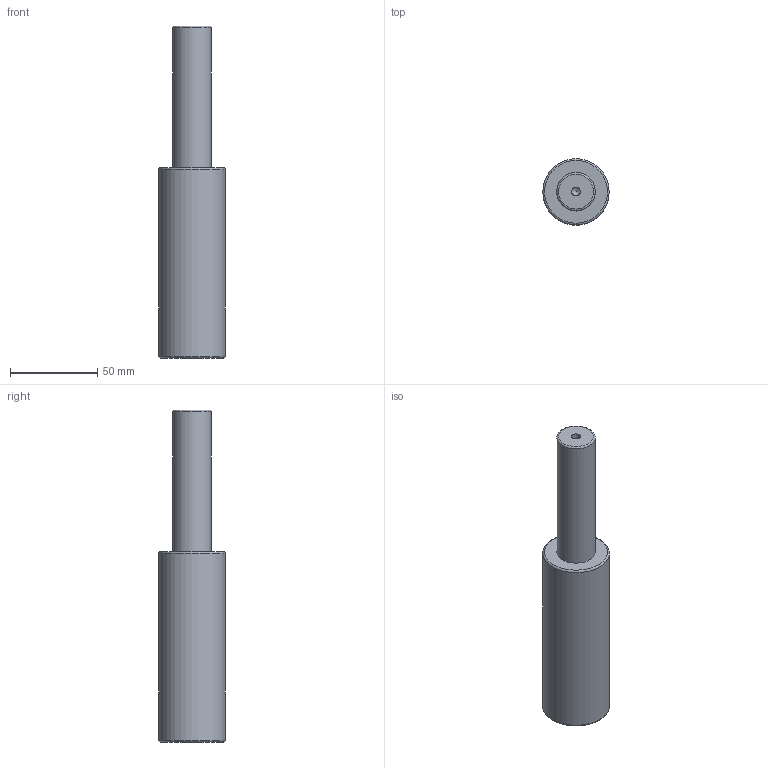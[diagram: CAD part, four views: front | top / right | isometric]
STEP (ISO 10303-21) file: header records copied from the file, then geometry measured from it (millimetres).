
FILE_DESCRIPTION(/* description */ (''),/* implementation_level */ '2;1');
FILE_NAME(/* name */ 'NV5-SMLX.38x80.stp',/* time_stamp */ '2018-08-31T16:08:35+02:00',/* author */ (''),/* organization */ (''),/* preprocessor_version */ 'ST-DEVELOPER v16',/* originating_system */ 'SIEMENS PLM Software NX 10.0',/* authorisation */ '');
FILE_SCHEMA (('AUTOMOTIVE_DESIGN { 1 0 10303 214 3 1 1 1 }'));
Length unit declared in the file: millimetre
Products named in the file (1): NV5-SMLX.38x80
Bounding box: 38 x 38 x 190 mm (x, y, z)
Volume: 153512.5 mm3; surface area: 21269.5 mm2
Topology: 1 solids, 1 shells, 12 faces, 24 edges, 15 vertices
Faces by surface type: cylinder 4, torus 3, plane 3, cone 2
Full cylindrical faces by diameter (mm): 5 x1, 6.8 x1, 22 x1, 38 x1
Entity records: 266 total; most frequent: DIRECTION 48, CARTESIAN_POINT 37, FACE_BOUND 24, AXIS2_PLACEMENT_3D 24, EDGE_LOOP 22, ORIENTED_EDGE 22, VERTEX_POINT 13, ADVANCED_FACE 12
